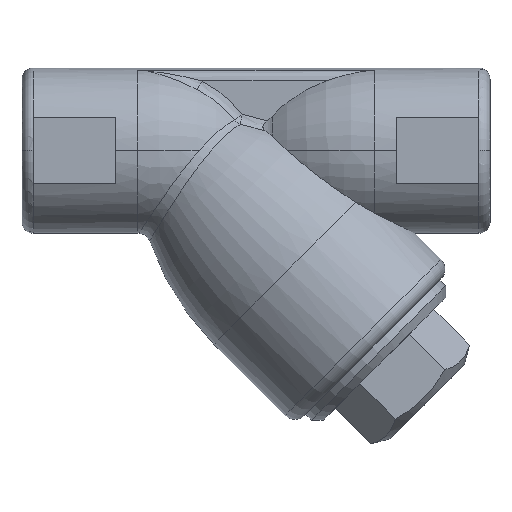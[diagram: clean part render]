
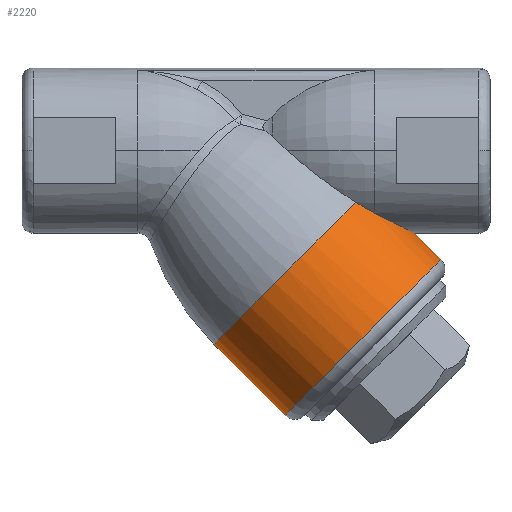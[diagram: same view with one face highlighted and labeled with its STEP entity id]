
A CAD part, top view. The second image highlights one B-rep face of the part: STEP entity #2220.
In plain terms, the highlighted cylindrical face has radius 20 mm (diameter 40 mm), a partial arc.
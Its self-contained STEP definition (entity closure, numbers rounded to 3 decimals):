
#35 = DIRECTION ( 'NONE',  ( -0.707, 0.707, 0. ) ) ;
#46 = CARTESIAN_POINT ( 'NONE',  ( 36.855, -11.793, 9.276 ) ) ;
#67 = B_SPLINE_CURVE_WITH_KNOTS ( 'NONE', 3,
 ( #2392, #178, #1898, #2373, #1646, #2924 ),
 .UNSPECIFIED., .F., .F.,
 ( 4, 2, 4 ),
 ( 0.004, 0.007, 0.009 ),
 .UNSPECIFIED. ) ;
#85 = CARTESIAN_POINT ( 'NONE',  ( -14.768, -13.516, 0. ) ) ;
#136 = CARTESIAN_POINT ( 'NONE',  ( 40.102, -13.437, 6.723 ) ) ;
#152 = CARTESIAN_POINT ( 'NONE',  ( 39.334, -13.054, 7.428 ) ) ;
#178 = CARTESIAN_POINT ( 'NONE',  ( 33.183, -9.762, 11.216 ) ) ;
#187 = CARTESIAN_POINT ( 'NONE',  ( 38.113, -12.437, 8.395 ) ) ;
#247 = VECTOR ( 'NONE', #1501, 1000. ) ;
#390 = EDGE_CURVE ( 'NONE', #1207, #3145, #732, .T. ) ;
#403 = CARTESIAN_POINT ( 'NONE',  ( 42.777, -14.753, 2.722 ) ) ;
#578 = DIRECTION ( 'NONE',  ( -0.707, 0.707, 0. ) ) ;
#589 = CARTESIAN_POINT ( 'NONE',  ( 21.012, -21.012, 0. ) ) ;
#592 = ORIENTED_EDGE ( 'NONE', *, *, #942, .F. ) ;
#604 = CARTESIAN_POINT ( 'NONE',  ( 6.87, -35.154, 0. ) ) ;
#610 = CARTESIAN_POINT ( 'NONE',  ( 19.799, -48.083, 0. ) ) ;
#632 = ORIENTED_EDGE ( 'NONE', *, *, #390, .T. ) ;
#643 = CARTESIAN_POINT ( 'NONE',  ( 42.956, -14.841, 2.197 ) ) ;
#676 = CARTESIAN_POINT ( 'NONE',  ( 42.069, -14.408, 4.199 ) ) ;
#732 = LINE ( 'NONE', #2260, #247 ) ;
#771 = B_SPLINE_CURVE_WITH_KNOTS ( 'NONE', 3,
 ( #1372, #2582, #46, #2847, #187, #152, #136, #3177, #1635, #872, #3214, #676, #2159, #1156, #403, #643, #1139, #2962, #1685, #2145, #931, #2913 ),
 .UNSPECIFIED., .F., .F.,
 ( 4, 2, 2, 2, 2, 2, 2, 2, 2, 2, 4 ),
 ( 0.022, 0.023, 0.025, 0.028, 0.029, 0.03, 0.031, 0.032, 0.033, 0.034, 0.035 ),
 .UNSPECIFIED. ) ;
#872 = CARTESIAN_POINT ( 'NONE',  ( 41.463, -14.11, 5.094 ) ) ;
#931 = CARTESIAN_POINT ( 'NONE',  ( 43.284, -15., 0.28 ) ) ;
#934 = VERTEX_POINT ( 'NONE', #2635 ) ;
#942 = EDGE_CURVE ( 'NONE', #934, #3145, #771, .T. ) ;
#1139 = CARTESIAN_POINT ( 'NONE',  ( 43.033, -14.878, 1.93 ) ) ;
#1156 = CARTESIAN_POINT ( 'NONE',  ( 42.674, -14.703, 2.98 ) ) ;
#1207 = VERTEX_POINT ( 'NONE', #2345 ) ;
#1238 = VERTEX_POINT ( 'NONE', #610 ) ;
#1251 = EDGE_CURVE ( 'NONE', #1558, #3253, #2178, .T. ) ;
#1275 = DIRECTION ( 'NONE',  ( -0.707, 0.707, 0. ) ) ;
#1278 = AXIS2_PLACEMENT_3D ( 'NONE', #3223, #2019, #3035 ) ;
#1310 = FACE_OUTER_BOUND ( 'NONE', #2886, .T. ) ;
#1372 = CARTESIAN_POINT ( 'NONE',  ( 36., -11.35, 9.807 ) ) ;
#1501 = DIRECTION ( 'NONE',  ( -0.707, 0.707, 0. ) ) ;
#1519 = ORIENTED_EDGE ( 'NONE', *, *, #1841, .T. ) ;
#1558 = VERTEX_POINT ( 'NONE', #604 ) ;
#1574 = CARTESIAN_POINT ( 'NONE',  ( -0.626, 0.626, 0. ) ) ;
#1591 = AXIS2_PLACEMENT_3D ( 'NONE', #1574, #1275, #2791 ) ;
#1599 = DIRECTION ( 'NONE',  ( -0.707, -0.707, 0. ) ) ;
#1635 = CARTESIAN_POINT ( 'NONE',  ( 41.137, -13.949, 5.519 ) ) ;
#1646 = CARTESIAN_POINT ( 'NONE',  ( 35.446, -11.061, 10.141 ) ) ;
#1684 = EDGE_CURVE ( 'NONE', #3253, #934, #67, .T. ) ;
#1685 = CARTESIAN_POINT ( 'NONE',  ( 43.204, -14.961, 1.118 ) ) ;
#1841 = EDGE_CURVE ( 'NONE', #1238, #1207, #2395, .T. ) ;
#1898 = CARTESIAN_POINT ( 'NONE',  ( 33.749, -10.104, 10.98 ) ) ;
#2019 = DIRECTION ( 'NONE',  ( -0.707, 0.707, 0. ) ) ;
#2136 = CARTESIAN_POINT ( 'NONE',  ( 32.62, -9.403, 11.423 ) ) ;
#2145 = CARTESIAN_POINT ( 'NONE',  ( 43.268, -14.992, 0.563 ) ) ;
#2159 = CARTESIAN_POINT ( 'NONE',  ( 42.336, -14.538, 3.728 ) ) ;
#2178 = CIRCLE ( 'NONE', #2823, 20. ) ;
#2220 = ADVANCED_FACE ( 'NONE', ( #1310 ), #3101, .T. ) ;
#2260 = CARTESIAN_POINT ( 'NONE',  ( 13.516, 14.768, 0. ) ) ;
#2345 = CARTESIAN_POINT ( 'NONE',  ( 48.083, -19.799, 0. ) ) ;
#2373 = CARTESIAN_POINT ( 'NONE',  ( 34.88, -10.753, 10.443 ) ) ;
#2392 = CARTESIAN_POINT ( 'NONE',  ( 32.62, -9.403, 11.423 ) ) ;
#2395 = CIRCLE ( 'NONE', #1278, 20. ) ;
#2402 = ORIENTED_EDGE ( 'NONE', *, *, #3062, .F. ) ;
#2582 = CARTESIAN_POINT ( 'NONE',  ( 36.43, -11.573, 9.548 ) ) ;
#2635 = CARTESIAN_POINT ( 'NONE',  ( 36., -11.35, 9.807 ) ) ;
#2664 = VECTOR ( 'NONE', #35, 1000. ) ;
#2703 = CARTESIAN_POINT ( 'NONE',  ( 43.284, -15., 0. ) ) ;
#2757 = ORIENTED_EDGE ( 'NONE', *, *, #1251, .F. ) ;
#2791 = DIRECTION ( 'NONE',  ( -0.707, -0.707, 0. ) ) ;
#2823 = AXIS2_PLACEMENT_3D ( 'NONE', #589, #578, #1599 ) ;
#2847 = CARTESIAN_POINT ( 'NONE',  ( 37.696, -12.224, 8.7 ) ) ;
#2886 = EDGE_LOOP ( 'NONE', ( #1519, #632, #592, #2983, #2757, #2402 ) ) ;
#2913 = CARTESIAN_POINT ( 'NONE',  ( 43.284, -15., 0. ) ) ;
#2924 = CARTESIAN_POINT ( 'NONE',  ( 36., -11.35, 9.807 ) ) ;
#2962 = CARTESIAN_POINT ( 'NONE',  ( 43.156, -14.938, 1.391 ) ) ;
#2983 = ORIENTED_EDGE ( 'NONE', *, *, #1684, .F. ) ;
#3035 = DIRECTION ( 'NONE',  ( 0.707, 0.707, 0. ) ) ;
#3062 = EDGE_CURVE ( 'NONE', #1238, #1558, #3066, .T. ) ;
#3066 = LINE ( 'NONE', #85, #2664 ) ;
#3101 = CYLINDRICAL_SURFACE ( 'NONE', #1591, 20. ) ;
#3145 = VERTEX_POINT ( 'NONE', #2703 ) ;
#3177 = CARTESIAN_POINT ( 'NONE',  ( 40.969, -13.866, 5.725 ) ) ;
#3214 = CARTESIAN_POINT ( 'NONE',  ( 41.621, -14.188, 4.874 ) ) ;
#3223 = CARTESIAN_POINT ( 'NONE',  ( 33.941, -33.941, 0. ) ) ;
#3253 = VERTEX_POINT ( 'NONE', #2136 ) ;
